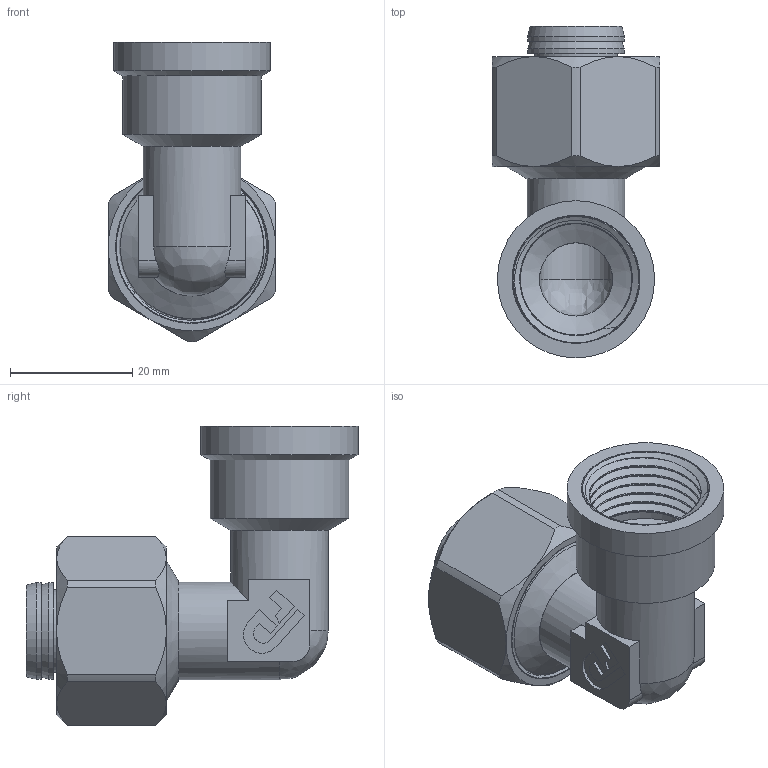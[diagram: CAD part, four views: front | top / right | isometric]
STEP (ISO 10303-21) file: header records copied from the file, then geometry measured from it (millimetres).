
FILE_DESCRIPTION(/* description */ (''),/* implementation_level */ '2;1');
FILE_NAME(/* name */ 'C:\Users\Doom\Desktop\Фадотех\Обжим\RFU13 F 30.03.2020\RFU13 F 30.03.2020.stp',/* time_stamp */ '2022-06-01T16:05:30+03:00',/* author */ ('Doom'),/* organization */ (''),/* preprocessor_version */ 'ST-DEVELOPER v18',/* originating_system */ 'Autodesk Inventor 2020',/* authorisation */ '');
FILE_SCHEMA (('AUTOMOTIVE_DESIGN { 1 0 10303 214 3 1 1 }'));
Length unit declared in the file: millimetre
Products named in the file (5): RFU13 F 30.03.2020; RFU13 F 30.03.2020_1; FADO MC Nut-20 15.02.2020; FADO MC Socket-20 15.02.2020; Olive 20 15.02.2020
Assembly tree (4 placements, depth 2):
  RFU13 F 30.03.2020
    RFU13 F 30.03.2020_1
    FADO MC Nut-20 15.02.2020
    FADO MC Socket-20 15.02.2020
    Olive 20 15.02.2020
Bounding box: 27.5 x 54.37 x 49 mm (x, y, z)
Volume: 15963.2 mm3; surface area: 22965.5 mm2
Topology: 7 solids, 7 shells, 571 faces, 1567 edges, 1049 vertices
Faces by surface type: bspline 268, plane 176, cylinder 94, cone 30, torus 3
Full cylindrical faces by diameter (mm): 11.5 x1, 12 x2, 13.531 x2, 14.5 x1, 15.802 x5, 16 x2, 17.391 x1, 17.5 x1, 18 x1, 18.26 x6, 20.5 x1, 20.95 x2, 22.732 x1, 22.776 x8, 23 x1, 23.517 x2, 24.1 x1, 25 x12, 25.732 x1
Entity records: 35230 total; most frequent: CARTESIAN_POINT 22351, ORIENTED_EDGE 3114, DIRECTION 1823, EDGE_CURVE 1557, VERTEX_POINT 1045, LINE 629, VECTOR 629, EDGE_LOOP 628
